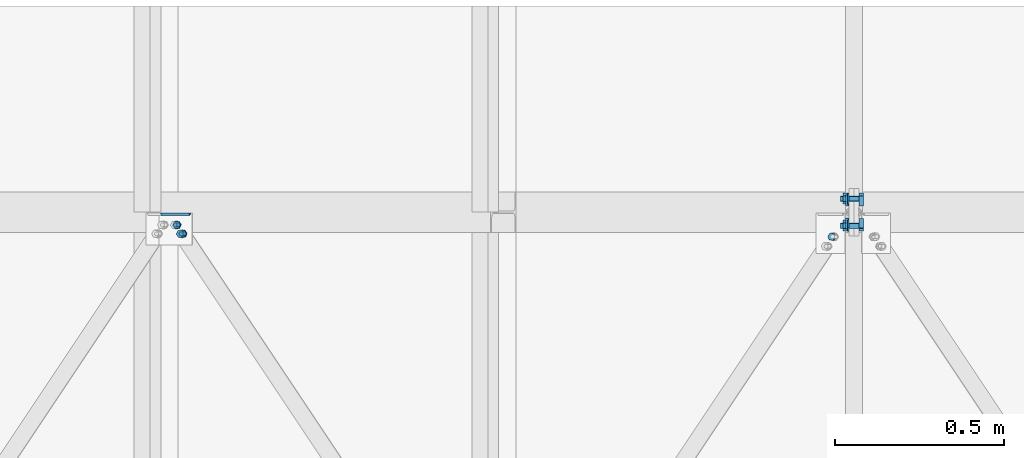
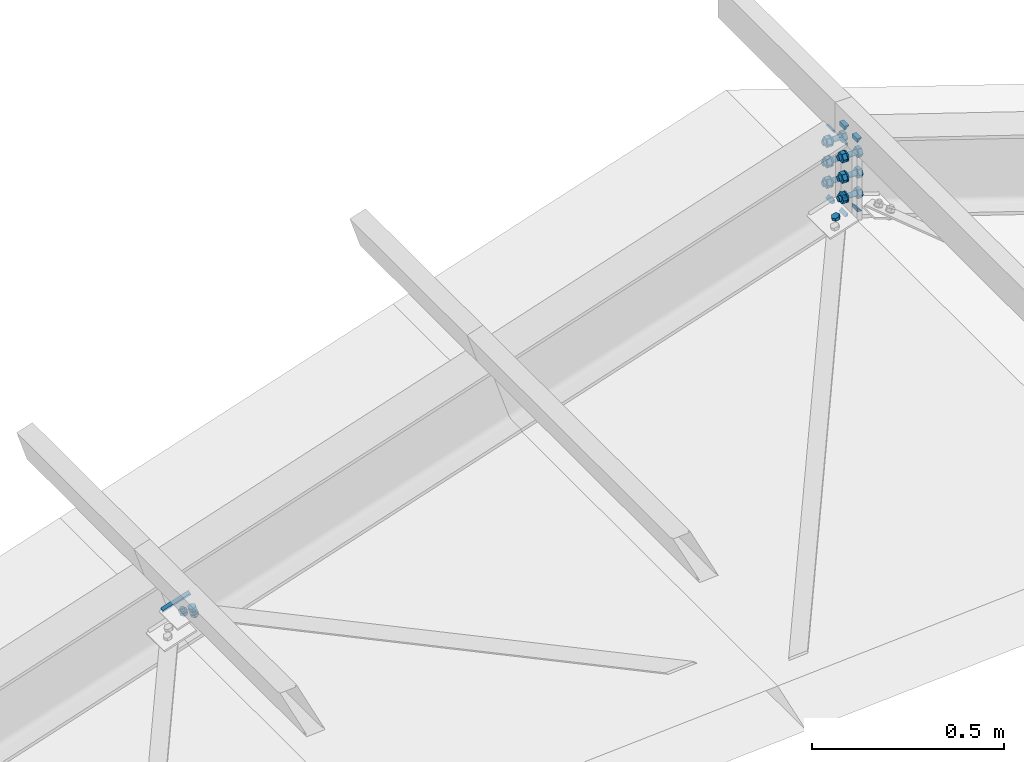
# One storey, part 42 of 53: 32 mechanical fasteners, 14 fasteners.
"""IFC4 building model written with IfcOpenShell, lengths in metres."""

from ifc_helpers import new_model, si_unit, frame, origin_with_axes, place, context, project, spatial, polyline, outline, extrude, type_object, element, save


model = new_model("IFC4")

# Units and contexts
model_context = context("Model", 3, precision=1e-05, world=origin_with_axes())
ifc_project = project(units=[si_unit("LENGTHUNIT", "METRE"), si_unit("AREAUNIT", "SQUARE_METRE"), si_unit("VOLUMEUNIT", "CUBIC_METRE"), si_unit("MASSUNIT", "GRAM", prefix="KILO"), si_unit("TIMEUNIT", "SECOND"), si_unit("PLANEANGLEUNIT", "RADIAN"), si_unit("SOLIDANGLEUNIT", "STERADIAN"), si_unit("THERMODYNAMICTEMPERATUREUNIT", "DEGREE_CELSIUS")], contexts=[model_context])

# Site, building, storey
placement_1 = place(None, origin_with_axes())
site = spatial("IfcSite", under=ifc_project, at=placement_1, Name="Italia", CompositionType="ELEMENT")
building = spatial("IfcBuilding", under=site, at=placement_1, Name="Capannone", CompositionType="ELEMENT")
storey_placement = place(None, frame((0.0, 0.0, 5.550000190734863), z_axis=(0.0, 0.0, 1.0), x_axis=(1.0, 0.0, 0.0)))
storey = spatial("IfcBuildingStorey", under=building, at=storey_placement, Name="Storey 1", CompositionType="ELEMENT", Elevation=5.550000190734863)

# Mechanical fasteners
mechanical_fastener_type_1 = type_object("IfcMechanicalFastenerType", Name="Collegamento -1121_-1146", PredefinedType="BOLT")
placement_2 = place(placement_1, origin_with_axes())
mechanical_fastener_1_placement = place(placement_2, origin_with_axes())
element("IfcMechanicalFastener", 1, at=mechanical_fastener_1_placement, inside=storey, type_object=mechanical_fastener_type_1, Name="Collegamento -1121_-1146", NominalDiameter=0.012, context=model_context, shape_type="SweptSolid", body=[
    extrude(outline(polyline([(0.0, 0.0), (-0.000204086, -0.00155354), (-0.000802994, -0.00299978), (-0.00175667, -0.0042429), (-0.00299931, -0.00519657), (-0.00444698, -0.00579548), (-0.00599957, -0.00600004), (-0.00755215, -0.00579548), (-0.00899982, -0.00519657), (-0.0102425, -0.0042429), (-0.0111961, -0.00299978), (-0.011795, -0.00155354), (-0.0119991, 0.0), (-0.011795, 0.00155258), (-0.0111961, 0.00300026), (-0.0102425, 0.00424242), (-0.00899982, 0.00519657), (-0.00755215, 0.00579548), (-0.00599957, 0.00600052), (-0.00444698, 0.00579548), (-0.00299931, 0.00519657), (-0.00175667, 0.00424242), (-0.000802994, 0.00300026), (-0.000204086, 0.00155258), (0.0, 0.0)])), frame((5.00047, 14.9561, 7.27669), z_axis=(-0.312158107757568, 0.0, 0.950030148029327), x_axis=(0.0, -1.0, 0.0)), (0.0, 0.0, 1.0), 0.028),
])
mechanical_fastener_type_2 = type_object("IfcMechanicalFastenerType", Name="Collegamento -1121_-1146", PredefinedType="BOLT")
mechanical_fastener_2_placement = place(placement_2, origin_with_axes())
element("IfcMechanicalFastener", 2, at=mechanical_fastener_2_placement, inside=storey, type_object=mechanical_fastener_type_2, Name="Collegamento -1121_-1146", NominalDiameter=0.0119997, context=model_context, shape_type="SweptSolid", body=[
    extrude(outline(polyline([(0.0, 0.0), (-0.00982285, -0.00689316), (-0.00876427, -0.0188465), (0.0021162, -0.0239067), (0.011939, -0.0170135), (0.0108814, -0.00506067), (0.0, 0.0)])), frame((5.00982, 14.9631, 7.2865), z_axis=(-0.312171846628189, 0.0, 0.950025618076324), x_axis=(0.0, -1.0, 0.0)), (0.0, 0.0, 1.0), 0.00960023),
])
mechanical_fastener_type_3 = type_object("IfcMechanicalFastenerType", Name="Collegamento -1121_-1146", PredefinedType="BOLT")
mechanical_fastener_3_placement = place(placement_2, origin_with_axes())
element("IfcMechanicalFastener", 3, at=mechanical_fastener_3_placement, inside=storey, type_object=mechanical_fastener_type_3, Name="Collegamento -1121_-1146", NominalDiameter=0.024, context=model_context, shape_type="SweptSolid", body=[
    extrude(outline(polyline([(0.0, 0.0), (-0.000409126, -0.00310564), (-0.00160789, -0.00600004), (-0.00351524, -0.00848532), (-0.00600052, -0.0103927), (-0.00889397, -0.0115914), (-0.0120001, -0.0120001), (-0.0151062, -0.0115914), (-0.0179996, -0.0103927), (-0.0204849, -0.00848532), (-0.0223923, -0.00600004), (-0.023591, -0.00310564), (-0.0240002, 0.0), (-0.023591, 0.00310564), (-0.0223923, 0.00599957), (-0.0204849, 0.00848532), (-0.0179996, 0.0103917), (-0.0151062, 0.0115914), (-0.0120001, 0.0119996), (-0.00889397, 0.0115914), (-0.00600052, 0.0103917), (-0.00351524, 0.00848532), (-0.00160789, 0.00599957), (-0.000409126, 0.00310564), (0.0, 0.0)])), frame((4.99547, 14.9501, 7.29189), z_axis=(-0.31214714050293, 0.0, 0.950033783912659), x_axis=(0.0, -1.0, 0.0)), (0.0, 0.0, 1.0), 0.00199963),
])
mechanical_fastener_type_4 = type_object("IfcMechanicalFastenerType", Name="Collegamento -1121_-1146", PredefinedType="BOLT")
mechanical_fastener_4_placement = place(placement_2, origin_with_axes())
element("IfcMechanicalFastener", 4, at=mechanical_fastener_4_placement, inside=storey, type_object=mechanical_fastener_type_4, Name="Collegamento -1121_-1146", NominalDiameter=0.0119996, context=model_context, shape_type="SweptSolid", body=[
    extrude(outline(polyline([(0.0, 0.0), (-0.00982285, -0.00689363), (-0.00876522, -0.018846), (0.0021162, -0.0239072), (0.011939, -0.0170135), (0.0108805, -0.0050602), (0.0, 0.0)])), frame((5.02054, 14.9369, 7.31276), z_axis=(-0.312171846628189, 0.0, 0.950025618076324), x_axis=(0.0, -1.0, 0.0)), (0.0, 0.0, 1.0), 0.00960023),
])
mechanical_fastener_type_5 = type_object("IfcMechanicalFastenerType", Name="Collegamento -1121_-1146", PredefinedType="BOLT")
mechanical_fastener_5_placement = place(placement_2, origin_with_axes())
element("IfcMechanicalFastener", 5, at=mechanical_fastener_5_placement, inside=storey, type_object=mechanical_fastener_type_5, Name="Collegamento -1121_-1146", NominalDiameter=0.012, context=model_context, shape_type="SweptSolid", body=[
    extrude(outline(polyline([(0.0, 0.0), (-0.000204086, -0.00155306), (-0.000802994, -0.00299931), (-0.00175667, -0.0042429), (-0.00299931, -0.00519657), (-0.00444698, -0.00579548), (-0.00599957, -0.00600004), (-0.00755215, -0.00579548), (-0.00899982, -0.00519657), (-0.0102425, -0.0042429), (-0.0111961, -0.00299931), (-0.011795, -0.00155306), (-0.0119991, 0.0), (-0.011795, 0.00155306), (-0.0111961, 0.00300026), (-0.0102425, 0.0042429), (-0.00899982, 0.00519657), (-0.00755215, 0.00579548), (-0.00599957, 0.00600052), (-0.00444698, 0.00579548), (-0.00299931, 0.00519657), (-0.00175667, 0.0042429), (-0.000802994, 0.00300026), (-0.000204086, 0.00155306), (0.0, 0.0)])), frame((5.01793, 14.9299, 7.28243), z_axis=(-0.312158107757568, 0.0, 0.950030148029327), x_axis=(0.0, -1.0, 0.0)), (0.0, 0.0, 1.0), 0.028),
])
mechanical_fastener_type_6 = type_object("IfcMechanicalFastenerType", Name="Collegamento -1121_-1146", PredefinedType="BOLT")
mechanical_fastener_6_placement = place(placement_2, origin_with_axes())
element("IfcMechanicalFastener", 6, at=mechanical_fastener_6_placement, inside=storey, type_object=mechanical_fastener_type_6, Name="Collegamento -1121_-1146", NominalDiameter=0.0119996, context=model_context, shape_type="SweptSolid", body=[
    extrude(outline(polyline([(0.0, 0.0), (-0.00982285, -0.00689268), (-0.00876522, -0.0188465), (0.0021162, -0.0239067), (0.011939, -0.0170135), (0.0108805, -0.0050602), (0.0, 0.0)])), frame((5.02729, 14.9369, 7.29224), z_axis=(-0.312171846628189, 0.0, 0.950025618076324), x_axis=(0.0, -1.0, 0.0)), (0.0, 0.0, 1.0), 0.00960023),
])
mechanical_fastener_type_7 = type_object("IfcMechanicalFastenerType", Name="Collegamento -1121_-1146", PredefinedType="BOLT")
mechanical_fastener_7_placement = place(placement_2, origin_with_axes())
element("IfcMechanicalFastener", 7, at=mechanical_fastener_7_placement, inside=storey, type_object=mechanical_fastener_type_7, Name="Collegamento -1121_-1146", NominalDiameter=0.024, context=model_context, shape_type="SweptSolid", body=[
    extrude(outline(polyline([(0.0, 0.0), (-0.000409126, -0.00310612), (-0.00160789, -0.00600052), (-0.00351524, -0.00848579), (-0.00600052, -0.0103922), (-0.00889397, -0.0115914), (-0.0120001, -0.0120001), (-0.0151062, -0.0115914), (-0.0179996, -0.0103922), (-0.0204849, -0.00848579), (-0.0223923, -0.00600052), (-0.023591, -0.00310612), (-0.0240002, 0.0), (-0.023591, 0.00310516), (-0.0223923, 0.00599957), (-0.0204849, 0.00848484), (-0.0179996, 0.0103917), (-0.0151062, 0.011591), (-0.0120001, 0.0120001), (-0.00889397, 0.011591), (-0.00600052, 0.0103917), (-0.00351524, 0.00848484), (-0.00160789, 0.00599957), (-0.000409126, 0.00310516), (0.0, 0.0)])), frame((5.01293, 14.9239, 7.29763), z_axis=(-0.312005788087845, 0.0, 0.950080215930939), x_axis=(0.0, -1.0, 0.0)), (0.0, 0.0, 1.0), 0.00200054),
])

# Fasteners
fastener_type_1 = type_object("IfcFastenerType", Name="Collegamento -1121_-1146", PredefinedType="WELD")
fastener_1_placement = place(placement_2, origin_with_axes())
element("IfcFastener", 8, at=fastener_1_placement, inside=storey, type_object=fastener_type_1, Name="Collegamento -1121_-1146", context=model_context, shape_type="SweptSolid", body=[
    extrude(outline(polyline([(0.0, 0.0), (-0.00717258, 0.00695753), (0.0, 0.00695753), (0.0, 0.0)])), frame((4.95413, 14.9969, 7.27841), z_axis=(0.950030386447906, 0.0, 0.312157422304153), x_axis=(0.0, 1.0, 0.0)), (0.0, 0.0, 1.0), 0.0881001),
])
fastener_type_2 = type_object("IfcFastenerType", Name="Collegamento -1121_-1146", PredefinedType="WELD")
fastener_2_placement = place(placement_2, origin_with_axes())
element("IfcFastener", 9, at=fastener_2_placement, inside=storey, type_object=fastener_type_2, Name="Collegamento -1121_-1146", context=model_context, shape_type="SweptSolid", body=[
    extrude(outline(polyline([(0.0, 0.0), (0.00717258, -0.00695801), (0.0, -0.00695801), (0.0, 0.0)])), frame((5.03195, 14.9969, 7.32378), z_axis=(-0.950029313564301, 0.0, -0.312160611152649), x_axis=(0.0, -1.0, 0.0)), (0.0, 0.0, 1.0), 0.0880992),
])
fastener_type_3 = type_object("IfcFastenerType", Name="Collegamenti -1142_-1128 -1143_-1130 -1144_-1132 -1145_-1134 -1146_-1136 -1147_-1138", PredefinedType="WELD")
fastener_3_placement = place(placement_2, origin_with_axes())
element("IfcFastener", 10, at=fastener_3_placement, inside=storey, type_object=fastener_type_3, Name="Collegamenti -1142_-1128 -1143_-1130 -1144_-1132 -1145_-1134 -1146_-1136 -1147_-1138", context=model_context, shape_type="SweptSolid", body=[
    extrude(outline(polyline([(0.0, 0.0), (-0.0131736, 0.0127764), (4.76837e-07, 0.0127764), (0.0, 0.0)])), frame((7.01495, 14.9529, 8.07465), z_axis=(0.0, 1.0, 0.0), x_axis=(-1.0, 0.0, 0.0)), (0.0, 0.0, 1.0), 0.0290003),
])
fastener_type_4 = type_object("IfcFastenerType", Name="Collegamenti -1142_-1128 -1143_-1130 -1144_-1132 -1145_-1134 -1146_-1136 -1147_-1138", PredefinedType="WELD")
fastener_4_placement = place(placement_2, origin_with_axes())
element("IfcFastener", 11, at=fastener_4_placement, inside=storey, type_object=fastener_type_4, Name="Collegamenti -1142_-1128 -1143_-1130 -1144_-1132 -1145_-1134 -1146_-1136 -1147_-1138", context=model_context, shape_type="SweptSolid", body=[
    extrude(outline(polyline([(0.0, 0.0), (0.0131736, -0.0127788), (0.0, -0.0127788), (0.0, 0.0)])), frame((7.01495, 14.9819, 7.86811), z_axis=(0.0, -1.0, 0.0), x_axis=(1.0, 0.0, 0.0)), (0.0, 0.0, 1.0), 0.0290003),
])
fastener_type_5 = type_object("IfcFastenerType", Name="Collegamenti -1142_-1128 -1143_-1130 -1144_-1132 -1145_-1134 -1146_-1136 -1147_-1138", PredefinedType="WELD")
fastener_5_placement = place(placement_2, origin_with_axes())
element("IfcFastener", 12, at=fastener_5_placement, inside=storey, type_object=fastener_type_5, Name="Collegamenti -1142_-1128 -1143_-1130 -1144_-1132 -1145_-1134 -1146_-1136 -1147_-1138", context=model_context, shape_type="SweptSolid", body=[
    extrude(outline(polyline([(0.0, 0.0), (0.0131736, -0.0127788), (0.0, -0.0127788), (0.0, 0.0)])), frame((7.01495, 15.0471, 7.86811), z_axis=(0.0, -1.0, 0.0), x_axis=(1.0, 0.0, 0.0)), (0.0, 0.0, 1.0), 0.0290003),
])
fastener_type_6 = type_object("IfcFastenerType", Name="Collegamenti -1142_-1128 -1143_-1130 -1144_-1132 -1145_-1134 -1146_-1136 -1147_-1138", PredefinedType="WELD")
fastener_6_placement = place(placement_2, origin_with_axes())
element("IfcFastener", 13, at=fastener_6_placement, inside=storey, type_object=fastener_type_6, Name="Collegamenti -1142_-1128 -1143_-1130 -1144_-1132 -1145_-1134 -1146_-1136 -1147_-1138", context=model_context, shape_type="SweptSolid", body=[
    extrude(outline(polyline([(0.0, 0.0), (-0.0131736, 0.0127764), (4.76837e-07, 0.0127764), (0.0, 0.0)])), frame((7.01495, 15.0181, 8.07465), z_axis=(0.0, 1.0, 0.0), x_axis=(-1.0, 0.0, 0.0)), (0.0, 0.0, 1.0), 0.0290003),
])
fastener_type_7 = type_object("IfcFastenerType", Name="Collegamenti -1142_-1128 -1143_-1130 -1144_-1132 -1145_-1134 -1146_-1136 -1147_-1138", PredefinedType="WELD")
fastener_7_placement = place(placement_2, origin_with_axes())
element("IfcFastener", 14, at=fastener_7_placement, inside=storey, type_object=fastener_type_7, Name="Collegamenti -1142_-1128 -1143_-1130 -1144_-1132 -1145_-1134 -1146_-1136 -1147_-1138", context=model_context, shape_type="SweptSolid", body=[
    extrude(outline(polyline([(0.0, 0.0), (-0.0131736, 0.0127764), (4.76837e-07, 0.0127764), (0.0, 0.0)])), frame((7.01495, 14.9529, 8.07465), z_axis=(0.0, 1.0, 0.0), x_axis=(-1.0, 0.0, 0.0)), (0.0, 0.0, 1.0), 0.0290003),
])
fastener_type_8 = type_object("IfcFastenerType", Name="Collegamenti -1142_-1128 -1143_-1130 -1144_-1132 -1145_-1134 -1146_-1136 -1147_-1138", PredefinedType="WELD")
fastener_8_placement = place(placement_2, origin_with_axes())
element("IfcFastener", 15, at=fastener_8_placement, inside=storey, type_object=fastener_type_8, Name="Collegamenti -1142_-1128 -1143_-1130 -1144_-1132 -1145_-1134 -1146_-1136 -1147_-1138", context=model_context, shape_type="SweptSolid", body=[
    extrude(outline(polyline([(0.0, 0.0), (0.0131736, -0.0127788), (0.0, -0.0127788), (0.0, 0.0)])), frame((7.01495, 14.9819, 7.86811), z_axis=(0.0, -1.0, 0.0), x_axis=(1.0, 0.0, 0.0)), (0.0, 0.0, 1.0), 0.0290003),
])
fastener_type_9 = type_object("IfcFastenerType", Name="Collegamenti -1142_-1128 -1143_-1130 -1144_-1132 -1145_-1134 -1146_-1136 -1147_-1138", PredefinedType="WELD")
fastener_9_placement = place(placement_2, origin_with_axes())
element("IfcFastener", 16, at=fastener_9_placement, inside=storey, type_object=fastener_type_9, Name="Collegamenti -1142_-1128 -1143_-1130 -1144_-1132 -1145_-1134 -1146_-1136 -1147_-1138", context=model_context, shape_type="SweptSolid", body=[
    extrude(outline(polyline([(0.0, 0.0), (0.0131736, -0.0127788), (0.0, -0.0127788), (0.0, 0.0)])), frame((7.01495, 15.0471, 7.86811), z_axis=(0.0, -1.0, 0.0), x_axis=(1.0, 0.0, 0.0)), (0.0, 0.0, 1.0), 0.0290003),
])
fastener_type_10 = type_object("IfcFastenerType", Name="Collegamenti -1142_-1128 -1143_-1130 -1144_-1132 -1145_-1134 -1146_-1136 -1147_-1138", PredefinedType="WELD")
fastener_10_placement = place(placement_2, origin_with_axes())
element("IfcFastener", 17, at=fastener_10_placement, inside=storey, type_object=fastener_type_10, Name="Collegamenti -1142_-1128 -1143_-1130 -1144_-1132 -1145_-1134 -1146_-1136 -1147_-1138", context=model_context, shape_type="SweptSolid", body=[
    extrude(outline(polyline([(0.0, 0.0), (-0.0131736, 0.0127764), (4.76837e-07, 0.0127764), (0.0, 0.0)])), frame((7.01495, 15.0181, 8.07465), z_axis=(0.0, 1.0, 0.0), x_axis=(-1.0, 0.0, 0.0)), (0.0, 0.0, 1.0), 0.0290003),
])
fastener_type_11 = type_object("IfcFastenerType", Name="Collegamenti -1142_-1128 -1143_-1130 -1144_-1132 -1145_-1134 -1146_-1136 -1147_-1138", PredefinedType="WELD")
fastener_11_placement = place(placement_2, origin_with_axes())
element("IfcFastener", 18, at=fastener_11_placement, inside=storey, type_object=fastener_type_11, Name="Collegamenti -1142_-1128 -1143_-1130 -1144_-1132 -1145_-1134 -1146_-1136 -1147_-1138", context=model_context, shape_type="SweptSolid", body=[
    extrude(outline(polyline([(0.0, 0.0), (-0.00982714, -0.0095315), (0.0, -0.0095315), (0.0, 0.0)])), frame((6.98495, 15.05, 7.86497), z_axis=(0.0, -1.0, 0.0), x_axis=(1.0, 0.0, 0.0)), (0.0, 0.0, 1.0), 0.0319996),
])
fastener_type_12 = type_object("IfcFastenerType", Name="Collegamenti -1142_-1128 -1143_-1130 -1144_-1132 -1145_-1134 -1146_-1136 -1147_-1138", PredefinedType="WELD")
fastener_12_placement = place(placement_2, origin_with_axes())
element("IfcFastener", 19, at=fastener_12_placement, inside=storey, type_object=fastener_type_12, Name="Collegamenti -1142_-1128 -1143_-1130 -1144_-1132 -1145_-1134 -1146_-1136 -1147_-1138", context=model_context, shape_type="SweptSolid", body=[
    extrude(outline(polyline([(0.0, 0.0), (0.00982714, 0.00953293), (0.0, 0.00953197), (0.0, 0.0)])), frame((6.98495, 15.0181, 8.0778), z_axis=(0.0, 1.0, 0.0), x_axis=(-1.0, 0.0, 0.0)), (0.0, 0.0, 1.0), 0.0319996),
])
fastener_type_13 = type_object("IfcFastenerType", Name="Collegamenti -1142_-1128 -1143_-1130 -1144_-1132 -1145_-1134 -1146_-1136 -1147_-1138", PredefinedType="WELD")
fastener_13_placement = place(placement_2, origin_with_axes())
element("IfcFastener", 20, at=fastener_13_placement, inside=storey, type_object=fastener_type_13, Name="Collegamenti -1142_-1128 -1143_-1130 -1144_-1132 -1145_-1134 -1146_-1136 -1147_-1138", context=model_context, shape_type="SweptSolid", body=[
    extrude(outline(polyline([(0.0, 0.0), (0.00982714, 0.00953293), (0.0, 0.00953197), (0.0, 0.0)])), frame((6.98495, 14.95, 8.0778), z_axis=(0.0, 1.0, 0.0), x_axis=(-1.0, 0.0, 0.0)), (0.0, 0.0, 1.0), 0.0319996),
])
fastener_type_14 = type_object("IfcFastenerType", Name="Collegamenti -1142_-1128 -1143_-1130 -1144_-1132 -1145_-1134 -1146_-1136 -1147_-1138", PredefinedType="WELD")
fastener_14_placement = place(placement_2, origin_with_axes())
element("IfcFastener", 21, at=fastener_14_placement, inside=storey, type_object=fastener_type_14, Name="Collegamenti -1142_-1128 -1143_-1130 -1144_-1132 -1145_-1134 -1146_-1136 -1147_-1138", context=model_context, shape_type="SweptSolid", body=[
    extrude(outline(polyline([(0.0, 0.0), (-0.00982714, -0.0095315), (0.0, -0.0095315), (0.0, 0.0)])), frame((6.98495, 14.9819, 7.86497), z_axis=(0.0, -1.0, 0.0), x_axis=(1.0, 0.0, 0.0)), (0.0, 0.0, 1.0), 0.0319996),
])

# Mechanical fasteners
mechanical_fastener_type_8 = type_object("IfcMechanicalFastenerType", Name="Collegamenti -1142_-1128 -1143_-1130 -1144_-1132 -1145_-1134 -1146_-1136 -1147_-1138", PredefinedType="BOLT")
mechanical_fastener_8_placement = place(placement_2, origin_with_axes())
element("IfcMechanicalFastener", 22, at=mechanical_fastener_8_placement, inside=storey, type_object=mechanical_fastener_type_8, Name="Collegamenti -1142_-1128 -1143_-1130 -1144_-1132 -1145_-1134 -1146_-1136 -1147_-1138", NominalDiameter=0.0159993, context=model_context, shape_type="SweptSolid", body=[
    extrude(outline(polyline([(0.0, 0.0), (-0.0160007, 0.0), (-0.0240002, 0.0138559), (-0.0160007, 0.0277119), (0.0, 0.0277119), (0.00799942, 0.0138559), (0.0, 0.0)])), frame((7.015, 14.968, 7.89746), z_axis=(1.0, 0.0, -3.7253659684e-05), x_axis=(0.0, 1.0, 0.0)), (0.0, 0.0, 1.0), 0.0127997),
])
mechanical_fastener_type_9 = type_object("IfcMechanicalFastenerType", Name="Collegamenti -1142_-1128 -1143_-1130 -1144_-1132 -1145_-1134 -1146_-1136 -1147_-1138", PredefinedType="BOLT")
mechanical_fastener_9_placement = place(placement_2, origin_with_axes())
element("IfcMechanicalFastener", 23, at=mechanical_fastener_9_placement, inside=storey, type_object=mechanical_fastener_type_9, Name="Collegamenti -1142_-1128 -1143_-1130 -1144_-1132 -1145_-1134 -1146_-1136 -1147_-1138", NominalDiameter=0.016, context=model_context, shape_type="SweptSolid", body=[
    extrude(outline(polyline([(0.0, 0.0), (-0.000272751, -0.00207043), (-0.00107193, -0.00400019), (-0.00234318, -0.00565672), (-0.00400066, -0.00692797), (-0.00592995, -0.00772762), (-0.00800037, -0.0079999), (-0.0100708, -0.00772762), (-0.0120001, -0.00692797), (-0.0136576, -0.00565672), (-0.0149288, -0.00400019), (-0.015728, -0.00207043), (-0.0160007, 0.0), (-0.015728, 0.00207043), (-0.0149288, 0.00400019), (-0.0136576, 0.00565672), (-0.0120001, 0.00692797), (-0.0100708, 0.00772762), (-0.00800037, 0.0079999), (-0.00592995, 0.00772762), (-0.00400066, 0.00692797), (-0.00234318, 0.00565672), (-0.00107193, 0.00400019), (-0.000272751, 0.00207043), (0.0, 0.0)])), frame((6.961, 14.968, 7.91131), z_axis=(1.0, 0.0, -1.7660668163e-05), x_axis=(0.0, 1.0, 0.0)), (0.0, 0.0, 1.0), 0.0539999),
])
mechanical_fastener_type_10 = type_object("IfcMechanicalFastenerType", Name="Collegamenti -1142_-1128 -1143_-1130 -1144_-1132 -1145_-1134 -1146_-1136 -1147_-1138", PredefinedType="BOLT")
mechanical_fastener_10_placement = place(placement_2, origin_with_axes())
element("IfcMechanicalFastener", 24, at=mechanical_fastener_10_placement, inside=storey, type_object=mechanical_fastener_type_10, Name="Collegamenti -1142_-1128 -1143_-1130 -1144_-1132 -1145_-1134 -1146_-1136 -1147_-1138", NominalDiameter=0.0159993, context=model_context, shape_type="SweptSolid", body=[
    extrude(outline(polyline([(0.0, 0.0), (-0.0160007, 0.0), (-0.0240002, 0.0138569), (-0.0160007, 0.0277128), (0.0, 0.0277128), (0.00799942, 0.0138569), (0.0, 0.0)])), frame((6.9682, 14.968, 7.89746), z_axis=(1.0, 0.0, 0.0), x_axis=(0.0, 1.0, 0.0)), (0.0, 0.0, 1.0), 0.0128002),
])
mechanical_fastener_type_11 = type_object("IfcMechanicalFastenerType", Name="Collegamenti -1142_-1128 -1143_-1130 -1144_-1132 -1145_-1134 -1146_-1136 -1147_-1138", PredefinedType="BOLT")
mechanical_fastener_11_placement = place(placement_2, origin_with_axes())
element("IfcMechanicalFastener", 25, at=mechanical_fastener_11_placement, inside=storey, type_object=mechanical_fastener_type_11, Name="Collegamenti -1142_-1128 -1143_-1130 -1144_-1132 -1145_-1134 -1146_-1136 -1147_-1138", NominalDiameter=0.032, context=model_context, shape_type="SweptSolid", body=[
    extrude(outline(polyline([(0.0, 0.0), (-0.000544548, -0.00414133), (-0.00214386, -0.0079999), (-0.00468636, -0.0113139), (-0.00799942, -0.0138564), (-0.0118589, -0.0154548), (-0.0159998, -0.0159998), (-0.0201406, -0.0154548), (-0.0240002, -0.0138564), (-0.0273132, -0.0113139), (-0.0298557, -0.0079999), (-0.031455, -0.00414133), (-0.0319996, 0.0), (-0.031455, 0.00414133), (-0.0298557, 0.0079999), (-0.0273132, 0.0113139), (-0.0240002, 0.0138564), (-0.0201406, 0.0154548), (-0.0159998, 0.0159998), (-0.0118589, 0.0154548), (-0.00799942, 0.0138564), (-0.00468636, 0.0113139), (-0.00214386, 0.0079999), (-0.000544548, 0.00414133), (0.0, 0.0)])), frame((6.981, 14.976, 7.91131), z_axis=(1.0, 0.0, 0.0), x_axis=(0.0, 1.0, 0.0)), (0.0, 0.0, 1.0), 0.00399923),
])
mechanical_fastener_type_12 = type_object("IfcMechanicalFastenerType", Name="Collegamenti -1142_-1128 -1143_-1130 -1144_-1132 -1145_-1134 -1146_-1136 -1147_-1138", PredefinedType="BOLT")
mechanical_fastener_12_placement = place(placement_2, origin_with_axes())
element("IfcMechanicalFastener", 26, at=mechanical_fastener_12_placement, inside=storey, type_object=mechanical_fastener_type_12, Name="Collegamenti -1142_-1128 -1143_-1130 -1144_-1132 -1145_-1134 -1146_-1136 -1147_-1138", NominalDiameter=0.0159993, context=model_context, shape_type="SweptSolid", body=[
    extrude(outline(polyline([(0.0, 0.0), (-0.0160007, 0.0), (-0.0240002, 0.0138559), (-0.0160007, 0.0277119), (0.0, 0.0277119), (0.00799942, 0.0138559), (0.0, 0.0)])), frame((7.015, 15.048, 7.89746), z_axis=(1.0, 0.0, -3.7253659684e-05), x_axis=(0.0, 1.0, 0.0)), (0.0, 0.0, 1.0), 0.0127997),
])
mechanical_fastener_type_13 = type_object("IfcMechanicalFastenerType", Name="Collegamenti -1142_-1128 -1143_-1130 -1144_-1132 -1145_-1134 -1146_-1136 -1147_-1138", PredefinedType="BOLT")
mechanical_fastener_13_placement = place(placement_2, origin_with_axes())
element("IfcMechanicalFastener", 27, at=mechanical_fastener_13_placement, inside=storey, type_object=mechanical_fastener_type_13, Name="Collegamenti -1142_-1128 -1143_-1130 -1144_-1132 -1145_-1134 -1146_-1136 -1147_-1138", NominalDiameter=0.016, context=model_context, shape_type="SweptSolid", body=[
    extrude(outline(polyline([(0.0, 0.0), (-0.000272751, -0.00207043), (-0.00107193, -0.00400019), (-0.00234318, -0.00565672), (-0.00400066, -0.00692797), (-0.00592995, -0.00772762), (-0.00800037, -0.0079999), (-0.0100708, -0.00772762), (-0.0120001, -0.00692797), (-0.0136576, -0.00565672), (-0.0149288, -0.00400019), (-0.015728, -0.00207043), (-0.0160007, 0.0), (-0.015728, 0.00207043), (-0.0149288, 0.00400019), (-0.0136576, 0.00565672), (-0.0120001, 0.00692797), (-0.0100708, 0.00772762), (-0.00800037, 0.0079999), (-0.00592995, 0.00772762), (-0.00400066, 0.00692797), (-0.00234318, 0.00565672), (-0.00107193, 0.00400019), (-0.000272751, 0.00207043), (0.0, 0.0)])), frame((6.961, 15.048, 7.91131), z_axis=(1.0, 0.0, -1.7660668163e-05), x_axis=(0.0, 1.0, 0.0)), (0.0, 0.0, 1.0), 0.0539999),
])
mechanical_fastener_type_14 = type_object("IfcMechanicalFastenerType", Name="Collegamenti -1142_-1128 -1143_-1130 -1144_-1132 -1145_-1134 -1146_-1136 -1147_-1138", PredefinedType="BOLT")
mechanical_fastener_14_placement = place(placement_2, origin_with_axes())
element("IfcMechanicalFastener", 28, at=mechanical_fastener_14_placement, inside=storey, type_object=mechanical_fastener_type_14, Name="Collegamenti -1142_-1128 -1143_-1130 -1144_-1132 -1145_-1134 -1146_-1136 -1147_-1138", NominalDiameter=0.0159993, context=model_context, shape_type="SweptSolid", body=[
    extrude(outline(polyline([(0.0, 0.0), (-0.0160007, 0.0), (-0.0240002, 0.0138569), (-0.0160007, 0.0277128), (0.0, 0.0277128), (0.00799942, 0.0138569), (0.0, 0.0)])), frame((6.9682, 15.048, 7.89746), z_axis=(1.0, 0.0, 0.0), x_axis=(0.0, 1.0, 0.0)), (0.0, 0.0, 1.0), 0.0128002),
])
mechanical_fastener_type_15 = type_object("IfcMechanicalFastenerType", Name="Collegamenti -1142_-1128 -1143_-1130 -1144_-1132 -1145_-1134 -1146_-1136 -1147_-1138", PredefinedType="BOLT")
mechanical_fastener_15_placement = place(placement_2, origin_with_axes())
element("IfcMechanicalFastener", 29, at=mechanical_fastener_15_placement, inside=storey, type_object=mechanical_fastener_type_15, Name="Collegamenti -1142_-1128 -1143_-1130 -1144_-1132 -1145_-1134 -1146_-1136 -1147_-1138", NominalDiameter=0.032, context=model_context, shape_type="SweptSolid", body=[
    extrude(outline(polyline([(0.0, 0.0), (-0.000544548, -0.00414133), (-0.00214386, -0.0079999), (-0.00468636, -0.0113139), (-0.00799942, -0.0138564), (-0.0118589, -0.0154548), (-0.0159998, -0.0159998), (-0.0201406, -0.0154548), (-0.0240002, -0.0138564), (-0.0273132, -0.0113139), (-0.0298557, -0.0079999), (-0.031455, -0.00414133), (-0.0319996, 0.0), (-0.031455, 0.00414133), (-0.0298557, 0.0079999), (-0.0273132, 0.0113139), (-0.0240002, 0.0138564), (-0.0201406, 0.0154548), (-0.0159998, 0.0159998), (-0.0118589, 0.0154548), (-0.00799942, 0.0138564), (-0.00468636, 0.0113139), (-0.00214386, 0.0079999), (-0.000544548, 0.00414133), (0.0, 0.0)])), frame((6.981, 15.056, 7.91131), z_axis=(1.0, 0.0, 0.0), x_axis=(0.0, 1.0, 0.0)), (0.0, 0.0, 1.0), 0.00399923),
])
mechanical_fastener_type_16 = type_object("IfcMechanicalFastenerType", Name="Collegamenti -1142_-1128 -1143_-1130 -1144_-1132 -1145_-1134 -1146_-1136 -1147_-1138", PredefinedType="BOLT")
mechanical_fastener_16_placement = place(placement_2, origin_with_axes())
element("IfcMechanicalFastener", 30, at=mechanical_fastener_16_placement, inside=storey, type_object=mechanical_fastener_type_16, Name="Collegamenti -1142_-1128 -1143_-1130 -1144_-1132 -1145_-1134 -1146_-1136 -1147_-1138", NominalDiameter=0.0159993, context=model_context, shape_type="SweptSolid", body=[
    extrude(outline(polyline([(0.0, 0.0), (-0.0160007, 0.0), (-0.0240002, 0.0138559), (-0.0160007, 0.0277128), (0.0, 0.0277128), (0.00799942, 0.0138559), (0.0, 0.0)])), frame((7.015, 14.968, 7.96246), z_axis=(1.0, 0.0, 3.7252273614e-05), x_axis=(0.0, 1.0, 0.0)), (0.0, 0.0, 1.0), 0.0128002),
])
mechanical_fastener_type_17 = type_object("IfcMechanicalFastenerType", Name="Collegamenti -1142_-1128 -1143_-1130 -1144_-1132 -1145_-1134 -1146_-1136 -1147_-1138", PredefinedType="BOLT")
mechanical_fastener_17_placement = place(placement_2, origin_with_axes())
element("IfcMechanicalFastener", 31, at=mechanical_fastener_17_placement, inside=storey, type_object=mechanical_fastener_type_17, Name="Collegamenti -1142_-1128 -1143_-1130 -1144_-1132 -1145_-1134 -1146_-1136 -1147_-1138", NominalDiameter=0.016, context=model_context, shape_type="SweptSolid", body=[
    extrude(outline(polyline([(0.0, 0.0), (-0.000272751, -0.00207043), (-0.00107193, -0.00400019), (-0.00234318, -0.00565672), (-0.00400066, -0.00692797), (-0.00592995, -0.00772762), (-0.00800037, -0.0079999), (-0.0100708, -0.00772762), (-0.0120001, -0.00692797), (-0.0136576, -0.00565672), (-0.0149288, -0.00400019), (-0.015728, -0.00207043), (-0.0160007, 0.0), (-0.015728, 0.00207043), (-0.0149288, 0.00400019), (-0.0136576, 0.00565672), (-0.0120001, 0.00692797), (-0.0100708, 0.00772762), (-0.00800037, 0.0079999), (-0.00592995, 0.00772762), (-0.00400066, 0.00692797), (-0.00234318, 0.00565672), (-0.00107193, 0.00400019), (-0.000272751, 0.00207043), (0.0, 0.0)])), frame((6.961, 14.968, 7.97631), z_axis=(1.0, 0.0, 0.0), x_axis=(0.0, 1.0, 0.0)), (0.0, 0.0, 1.0), 0.0539999),
])
mechanical_fastener_type_18 = type_object("IfcMechanicalFastenerType", Name="Collegamenti -1142_-1128 -1143_-1130 -1144_-1132 -1145_-1134 -1146_-1136 -1147_-1138", PredefinedType="BOLT")
mechanical_fastener_18_placement = place(placement_2, origin_with_axes())
element("IfcMechanicalFastener", 32, at=mechanical_fastener_18_placement, inside=storey, type_object=mechanical_fastener_type_18, Name="Collegamenti -1142_-1128 -1143_-1130 -1144_-1132 -1145_-1134 -1146_-1136 -1147_-1138", NominalDiameter=0.0159993, context=model_context, shape_type="SweptSolid", body=[
    extrude(outline(polyline([(0.0, 0.0), (-0.0160007, 0.0), (-0.0240002, 0.0138559), (-0.0160007, 0.0277128), (0.0, 0.0277128), (0.00799942, 0.0138559), (0.0, 0.0)])), frame((6.9682, 14.968, 7.96246), z_axis=(1.0, 0.0, -3.7253659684e-05), x_axis=(0.0, 1.0, 0.0)), (0.0, 0.0, 1.0), 0.0127997),
])
mechanical_fastener_type_19 = type_object("IfcMechanicalFastenerType", Name="Collegamenti -1142_-1128 -1143_-1130 -1144_-1132 -1145_-1134 -1146_-1136 -1147_-1138", PredefinedType="BOLT")
mechanical_fastener_19_placement = place(placement_2, origin_with_axes())
element("IfcMechanicalFastener", 33, at=mechanical_fastener_19_placement, inside=storey, type_object=mechanical_fastener_type_19, Name="Collegamenti -1142_-1128 -1143_-1130 -1144_-1132 -1145_-1134 -1146_-1136 -1147_-1138", NominalDiameter=0.032, context=model_context, shape_type="SweptSolid", body=[
    extrude(outline(polyline([(0.0, 0.0), (-0.000544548, -0.00414133), (-0.00214386, -0.0079999), (-0.00468636, -0.0113139), (-0.00799942, -0.0138564), (-0.0118589, -0.0154548), (-0.0159998, -0.0159998), (-0.0201406, -0.0154548), (-0.0240002, -0.0138564), (-0.0273132, -0.0113139), (-0.0298557, -0.0079999), (-0.031455, -0.00414133), (-0.0319996, 0.0), (-0.031455, 0.00414133), (-0.0298557, 0.0079999), (-0.0273132, 0.0113139), (-0.0240002, 0.0138564), (-0.0201406, 0.0154548), (-0.0159998, 0.0159998), (-0.0118589, 0.0154548), (-0.00799942, 0.0138564), (-0.00468636, 0.0113139), (-0.00214386, 0.0079999), (-0.000544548, 0.00414133), (0.0, 0.0)])), frame((6.981, 14.976, 7.97631), z_axis=(1.0, 0.0, 0.000238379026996), x_axis=(0.0, 1.0, 0.0)), (0.0, 0.0, 1.0), 0.00400066),
])
mechanical_fastener_type_20 = type_object("IfcMechanicalFastenerType", Name="Collegamenti -1142_-1128 -1143_-1130 -1144_-1132 -1145_-1134 -1146_-1136 -1147_-1138", PredefinedType="BOLT")
mechanical_fastener_20_placement = place(placement_2, origin_with_axes())
element("IfcMechanicalFastener", 34, at=mechanical_fastener_20_placement, inside=storey, type_object=mechanical_fastener_type_20, Name="Collegamenti -1142_-1128 -1143_-1130 -1144_-1132 -1145_-1134 -1146_-1136 -1147_-1138", NominalDiameter=0.0159993, context=model_context, shape_type="SweptSolid", body=[
    extrude(outline(polyline([(0.0, 0.0), (-0.0160007, 0.0), (-0.0240002, 0.0138559), (-0.0160007, 0.0277128), (0.0, 0.0277128), (0.00799942, 0.0138559), (0.0, 0.0)])), frame((7.015, 15.048, 7.96246), z_axis=(1.0, 0.0, 3.7252273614e-05), x_axis=(0.0, 1.0, 0.0)), (0.0, 0.0, 1.0), 0.0128002),
])
mechanical_fastener_type_21 = type_object("IfcMechanicalFastenerType", Name="Collegamenti -1142_-1128 -1143_-1130 -1144_-1132 -1145_-1134 -1146_-1136 -1147_-1138", PredefinedType="BOLT")
mechanical_fastener_21_placement = place(placement_2, origin_with_axes())
element("IfcMechanicalFastener", 35, at=mechanical_fastener_21_placement, inside=storey, type_object=mechanical_fastener_type_21, Name="Collegamenti -1142_-1128 -1143_-1130 -1144_-1132 -1145_-1134 -1146_-1136 -1147_-1138", NominalDiameter=0.016, context=model_context, shape_type="SweptSolid", body=[
    extrude(outline(polyline([(0.0, 0.0), (-0.000272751, -0.00207043), (-0.00107193, -0.00400019), (-0.00234318, -0.00565672), (-0.00400066, -0.00692797), (-0.00592995, -0.00772762), (-0.00800037, -0.0079999), (-0.0100708, -0.00772762), (-0.0120001, -0.00692797), (-0.0136576, -0.00565672), (-0.0149288, -0.00400019), (-0.015728, -0.00207043), (-0.0160007, 0.0), (-0.015728, 0.00207043), (-0.0149288, 0.00400019), (-0.0136576, 0.00565672), (-0.0120001, 0.00692797), (-0.0100708, 0.00772762), (-0.00800037, 0.0079999), (-0.00592995, 0.00772762), (-0.00400066, 0.00692797), (-0.00234318, 0.00565672), (-0.00107193, 0.00400019), (-0.000272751, 0.00207043), (0.0, 0.0)])), frame((6.961, 15.048, 7.97631), z_axis=(1.0, 0.0, 0.0), x_axis=(0.0, 1.0, 0.0)), (0.0, 0.0, 1.0), 0.0539999),
])
mechanical_fastener_type_22 = type_object("IfcMechanicalFastenerType", Name="Collegamenti -1142_-1128 -1143_-1130 -1144_-1132 -1145_-1134 -1146_-1136 -1147_-1138", PredefinedType="BOLT")
mechanical_fastener_22_placement = place(placement_2, origin_with_axes())
element("IfcMechanicalFastener", 36, at=mechanical_fastener_22_placement, inside=storey, type_object=mechanical_fastener_type_22, Name="Collegamenti -1142_-1128 -1143_-1130 -1144_-1132 -1145_-1134 -1146_-1136 -1147_-1138", NominalDiameter=0.0159993, context=model_context, shape_type="SweptSolid", body=[
    extrude(outline(polyline([(0.0, 0.0), (-0.0160007, 0.0), (-0.0240002, 0.0138559), (-0.0160007, 0.0277128), (0.0, 0.0277128), (0.00799942, 0.0138559), (0.0, 0.0)])), frame((6.9682, 15.048, 7.96246), z_axis=(1.0, 0.0, -3.7253659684e-05), x_axis=(0.0, 1.0, 0.0)), (0.0, 0.0, 1.0), 0.0127997),
])
mechanical_fastener_type_23 = type_object("IfcMechanicalFastenerType", Name="Collegamenti -1142_-1128 -1143_-1130 -1144_-1132 -1145_-1134 -1146_-1136 -1147_-1138", PredefinedType="BOLT")
mechanical_fastener_23_placement = place(placement_2, origin_with_axes())
element("IfcMechanicalFastener", 37, at=mechanical_fastener_23_placement, inside=storey, type_object=mechanical_fastener_type_23, Name="Collegamenti -1142_-1128 -1143_-1130 -1144_-1132 -1145_-1134 -1146_-1136 -1147_-1138", NominalDiameter=0.032, context=model_context, shape_type="SweptSolid", body=[
    extrude(outline(polyline([(0.0, 0.0), (-0.000544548, -0.00414133), (-0.00214386, -0.0079999), (-0.00468636, -0.0113139), (-0.00799942, -0.0138564), (-0.0118589, -0.0154548), (-0.0159998, -0.0159998), (-0.0201406, -0.0154548), (-0.0240002, -0.0138564), (-0.0273132, -0.0113139), (-0.0298557, -0.0079999), (-0.031455, -0.00414133), (-0.0319996, 0.0), (-0.031455, 0.00414133), (-0.0298557, 0.0079999), (-0.0273132, 0.0113139), (-0.0240002, 0.0138564), (-0.0201406, 0.0154548), (-0.0159998, 0.0159998), (-0.0118589, 0.0154548), (-0.00799942, 0.0138564), (-0.00468636, 0.0113139), (-0.00214386, 0.0079999), (-0.000544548, 0.00414133), (0.0, 0.0)])), frame((6.981, 15.056, 7.97631), z_axis=(1.0, 0.0, 0.000238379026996), x_axis=(0.0, 1.0, 0.0)), (0.0, 0.0, 1.0), 0.00400066),
])
mechanical_fastener_type_24 = type_object("IfcMechanicalFastenerType", Name="Collegamenti -1142_-1128 -1143_-1130 -1144_-1132 -1145_-1134 -1146_-1136 -1147_-1138", PredefinedType="BOLT")
mechanical_fastener_24_placement = place(placement_2, origin_with_axes())
element("IfcMechanicalFastener", 38, at=mechanical_fastener_24_placement, inside=storey, type_object=mechanical_fastener_type_24, Name="Collegamenti -1142_-1128 -1143_-1130 -1144_-1132 -1145_-1134 -1146_-1136 -1147_-1138", NominalDiameter=0.0159993, context=model_context, shape_type="SweptSolid", body=[
    extrude(outline(polyline([(0.0, 0.0), (-0.0160007, 0.0), (-0.0240002, 0.0138559), (-0.0160007, 0.0277128), (0.0, 0.0277128), (0.00799942, 0.0138559), (0.0, 0.0)])), frame((7.015, 14.968, 8.02746), z_axis=(1.0, 0.0, 7.4504547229e-05), x_axis=(0.0, 1.0, 0.0)), (0.0, 0.0, 1.0), 0.0128002),
])
mechanical_fastener_type_25 = type_object("IfcMechanicalFastenerType", Name="Collegamenti -1142_-1128 -1143_-1130 -1144_-1132 -1145_-1134 -1146_-1136 -1147_-1138", PredefinedType="BOLT")
mechanical_fastener_25_placement = place(placement_2, origin_with_axes())
element("IfcMechanicalFastener", 39, at=mechanical_fastener_25_placement, inside=storey, type_object=mechanical_fastener_type_25, Name="Collegamenti -1142_-1128 -1143_-1130 -1144_-1132 -1145_-1134 -1146_-1136 -1147_-1138", NominalDiameter=0.016, context=model_context, shape_type="SweptSolid", body=[
    extrude(outline(polyline([(0.0, 0.0), (-0.000272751, -0.00207043), (-0.00107193, -0.00399971), (-0.00234318, -0.0056572), (-0.00400066, -0.00692844), (-0.00592995, -0.00772762), (-0.00800037, -0.00800037), (-0.0100708, -0.00772762), (-0.0120001, -0.00692844), (-0.0136576, -0.0056572), (-0.0149288, -0.00399971), (-0.015728, -0.00207043), (-0.0160007, 0.0), (-0.015728, 0.00207043), (-0.0149288, 0.00399971), (-0.0136576, 0.0056572), (-0.0120001, 0.00692844), (-0.0100708, 0.00772762), (-0.00800037, 0.00800037), (-0.00592995, 0.00772762), (-0.00400066, 0.00692844), (-0.00234318, 0.0056572), (-0.00107193, 0.00399971), (-0.000272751, 0.00207043), (0.0, 0.0)])), frame((6.961, 14.968, 8.04131), z_axis=(1.0, 0.0, 3.5321023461e-05), x_axis=(0.0, 1.0, 0.0)), (0.0, 0.0, 1.0), 0.0540004),
])
mechanical_fastener_type_26 = type_object("IfcMechanicalFastenerType", Name="Collegamenti -1142_-1128 -1143_-1130 -1144_-1132 -1145_-1134 -1146_-1136 -1147_-1138", PredefinedType="BOLT")
mechanical_fastener_26_placement = place(placement_2, origin_with_axes())
element("IfcMechanicalFastener", 40, at=mechanical_fastener_26_placement, inside=storey, type_object=mechanical_fastener_type_26, Name="Collegamenti -1142_-1128 -1143_-1130 -1144_-1132 -1145_-1134 -1146_-1136 -1147_-1138", NominalDiameter=0.0159993, context=model_context, shape_type="SweptSolid", body=[
    extrude(outline(polyline([(0.0, 0.0), (-0.0160007, 0.0), (-0.0240002, 0.0138559), (-0.0160007, 0.0277128), (0.0, 0.0277128), (0.00799942, 0.0138559), (0.0, 0.0)])), frame((6.9682, 14.968, 8.02746), z_axis=(1.0, 0.0, -7.4507319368e-05), x_axis=(0.0, 1.0, 0.0)), (0.0, 0.0, 1.0), 0.0127997),
])
mechanical_fastener_type_27 = type_object("IfcMechanicalFastenerType", Name="Collegamenti -1142_-1128 -1143_-1130 -1144_-1132 -1145_-1134 -1146_-1136 -1147_-1138", PredefinedType="BOLT")
mechanical_fastener_27_placement = place(placement_2, origin_with_axes())
element("IfcMechanicalFastener", 41, at=mechanical_fastener_27_placement, inside=storey, type_object=mechanical_fastener_type_27, Name="Collegamenti -1142_-1128 -1143_-1130 -1144_-1132 -1145_-1134 -1146_-1136 -1147_-1138", NominalDiameter=0.032, context=model_context, shape_type="SweptSolid", body=[
    extrude(outline(polyline([(0.0, 0.0), (-0.000544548, -0.00414085), (-0.00214386, -0.00800037), (-0.00468636, -0.0113134), (-0.00799942, -0.0138559), (-0.0118589, -0.0154552), (-0.0159998, -0.0159998), (-0.0201406, -0.0154552), (-0.0240002, -0.0138559), (-0.0273132, -0.0113134), (-0.0298557, -0.00800037), (-0.031455, -0.00414085), (-0.0319996, 0.0), (-0.031455, 0.00414085), (-0.0298557, 0.00800037), (-0.0273132, 0.0113134), (-0.0240002, 0.0138559), (-0.0201406, 0.0154552), (-0.0159998, 0.0159998), (-0.0118589, 0.0154552), (-0.00799942, 0.0138559), (-0.00468636, 0.0113134), (-0.00214386, 0.00800037), (-0.000544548, 0.00414085), (0.0, 0.0)])), frame((6.981, 14.976, 8.04131), z_axis=(0.99999988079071, 0.0, 0.000476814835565), x_axis=(0.0, 1.0, 0.0)), (0.0, 0.0, 1.0), 0.00400019),
])
mechanical_fastener_type_28 = type_object("IfcMechanicalFastenerType", Name="Collegamenti -1142_-1128 -1143_-1130 -1144_-1132 -1145_-1134 -1146_-1136 -1147_-1138", PredefinedType="BOLT")
mechanical_fastener_28_placement = place(placement_2, origin_with_axes())
element("IfcMechanicalFastener", 42, at=mechanical_fastener_28_placement, inside=storey, type_object=mechanical_fastener_type_28, Name="Collegamenti -1142_-1128 -1143_-1130 -1144_-1132 -1145_-1134 -1146_-1136 -1147_-1138", NominalDiameter=0.0159993, context=model_context, shape_type="SweptSolid", body=[
    extrude(outline(polyline([(0.0, 0.0), (-0.0160007, 0.0), (-0.0240002, 0.0138559), (-0.0160007, 0.0277128), (0.0, 0.0277128), (0.00799942, 0.0138559), (0.0, 0.0)])), frame((7.015, 15.048, 8.02746), z_axis=(1.0, 0.0, 7.4504547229e-05), x_axis=(0.0, 1.0, 0.0)), (0.0, 0.0, 1.0), 0.0128002),
])
mechanical_fastener_type_29 = type_object("IfcMechanicalFastenerType", Name="Collegamenti -1142_-1128 -1143_-1130 -1144_-1132 -1145_-1134 -1146_-1136 -1147_-1138", PredefinedType="BOLT")
mechanical_fastener_29_placement = place(placement_2, origin_with_axes())
element("IfcMechanicalFastener", 43, at=mechanical_fastener_29_placement, inside=storey, type_object=mechanical_fastener_type_29, Name="Collegamenti -1142_-1128 -1143_-1130 -1144_-1132 -1145_-1134 -1146_-1136 -1147_-1138", NominalDiameter=0.016, context=model_context, shape_type="SweptSolid", body=[
    extrude(outline(polyline([(0.0, 0.0), (-0.000272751, -0.00207043), (-0.00107193, -0.00399971), (-0.00234318, -0.0056572), (-0.00400066, -0.00692844), (-0.00592995, -0.00772762), (-0.00800037, -0.00800037), (-0.0100708, -0.00772762), (-0.0120001, -0.00692844), (-0.0136576, -0.0056572), (-0.0149288, -0.00399971), (-0.015728, -0.00207043), (-0.0160007, 0.0), (-0.015728, 0.00207043), (-0.0149288, 0.00399971), (-0.0136576, 0.0056572), (-0.0120001, 0.00692844), (-0.0100708, 0.00772762), (-0.00800037, 0.00800037), (-0.00592995, 0.00772762), (-0.00400066, 0.00692844), (-0.00234318, 0.0056572), (-0.00107193, 0.00399971), (-0.000272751, 0.00207043), (0.0, 0.0)])), frame((6.961, 15.048, 8.04131), z_axis=(1.0, 0.0, 3.5321023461e-05), x_axis=(0.0, 1.0, 0.0)), (0.0, 0.0, 1.0), 0.0540004),
])
mechanical_fastener_type_30 = type_object("IfcMechanicalFastenerType", Name="Collegamenti -1142_-1128 -1143_-1130 -1144_-1132 -1145_-1134 -1146_-1136 -1147_-1138", PredefinedType="BOLT")
mechanical_fastener_30_placement = place(placement_2, origin_with_axes())
element("IfcMechanicalFastener", 44, at=mechanical_fastener_30_placement, inside=storey, type_object=mechanical_fastener_type_30, Name="Collegamenti -1142_-1128 -1143_-1130 -1144_-1132 -1145_-1134 -1146_-1136 -1147_-1138", NominalDiameter=0.0159993, context=model_context, shape_type="SweptSolid", body=[
    extrude(outline(polyline([(0.0, 0.0), (-0.0160007, 0.0), (-0.0240002, 0.0138559), (-0.0160007, 0.0277128), (0.0, 0.0277128), (0.00799942, 0.0138559), (0.0, 0.0)])), frame((6.9682, 15.048, 8.02746), z_axis=(1.0, 0.0, -7.4507319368e-05), x_axis=(0.0, 1.0, 0.0)), (0.0, 0.0, 1.0), 0.0127997),
])
mechanical_fastener_type_31 = type_object("IfcMechanicalFastenerType", Name="Collegamenti -1142_-1128 -1143_-1130 -1144_-1132 -1145_-1134 -1146_-1136 -1147_-1138", PredefinedType="BOLT")
mechanical_fastener_31_placement = place(placement_2, origin_with_axes())
element("IfcMechanicalFastener", 45, at=mechanical_fastener_31_placement, inside=storey, type_object=mechanical_fastener_type_31, Name="Collegamenti -1142_-1128 -1143_-1130 -1144_-1132 -1145_-1134 -1146_-1136 -1147_-1138", NominalDiameter=0.032, context=model_context, shape_type="SweptSolid", body=[
    extrude(outline(polyline([(0.0, 0.0), (-0.000544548, -0.00414085), (-0.00214386, -0.00800037), (-0.00468636, -0.0113134), (-0.00799942, -0.0138559), (-0.0118589, -0.0154552), (-0.0159998, -0.0159998), (-0.0201406, -0.0154552), (-0.0240002, -0.0138559), (-0.0273132, -0.0113134), (-0.0298557, -0.00800037), (-0.031455, -0.00414085), (-0.0319996, 0.0), (-0.031455, 0.00414085), (-0.0298557, 0.00800037), (-0.0273132, 0.0113134), (-0.0240002, 0.0138559), (-0.0201406, 0.0154552), (-0.0159998, 0.0159998), (-0.0118589, 0.0154552), (-0.00799942, 0.0138559), (-0.00468636, 0.0113134), (-0.00214386, 0.00800037), (-0.000544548, 0.00414085), (0.0, 0.0)])), frame((6.981, 15.056, 8.04131), z_axis=(0.99999988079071, 0.0, 0.000476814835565), x_axis=(0.0, 1.0, 0.0)), (0.0, 0.0, 1.0), 0.00400019),
])
mechanical_fastener_type_32 = type_object("IfcMechanicalFastenerType", Name="Collegamento -1147_-1119", PredefinedType="BOLT")
mechanical_fastener_32_placement = place(placement_2, origin_with_axes())
element("IfcMechanicalFastener", 46, at=mechanical_fastener_32_placement, inside=storey, type_object=mechanical_fastener_type_32, Name="Collegamento -1147_-1119", NominalDiameter=0.0119997, context=model_context, shape_type="SweptSolid", body=[
    extrude(outline(polyline([(0.0, 0.0), (-0.00982285, 0.0068922), (-0.0207033, 0.00183201), (-0.0217619, -0.0101213), (-0.011939, -0.0170135), (-0.00105762, -0.0119534), (0.0, 0.0)])), frame((6.94153, 14.9164, 7.88079), z_axis=(-0.312127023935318, 0.0, 0.950040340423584), x_axis=(0.0, -1.0, 0.0)), (0.0, 0.0, 1.0), 0.00960008),
])

save(model, "model.ifc")
